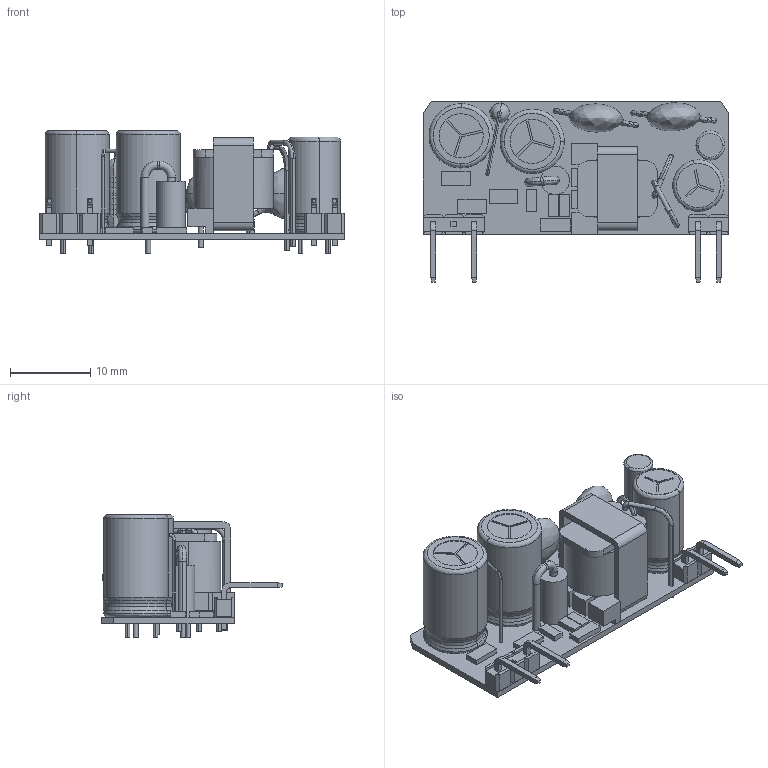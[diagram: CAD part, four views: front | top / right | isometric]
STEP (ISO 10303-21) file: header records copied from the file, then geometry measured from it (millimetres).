
FILE_DESCRIPTION (( 'STEP AP214' ), '1' );
FILE_NAME ('VCE03-P.STEP', '2019-06-14T05:00:12', ( '' ), ( '' ), 'SwSTEP 2.0', 'SolidWorks 2017', '' );
FILE_SCHEMA (( 'AUTOMOTIVE_DESIGN' ));
Length unit declared in the file: millimetre
Products named in the file (1): VCE03-P
Bounding box: 38.1 x 22.51 x 15.3 mm (x, y, z)
Volume: 3498.2 mm3; surface area: 4477.9 mm2
Topology: 13 solids, 13 shells, 490 faces, 1180 edges, 745 vertices
Faces by surface type: plane 291, cylinder 103, bspline 92, torus 4
Entity records: 22424 total; most frequent: CARTESIAN_POINT 5726, ORIENTED_EDGE 2344, DIRECTION 2252, EDGE_CURVE 1172, AXIS2_PLACEMENT_3D 753, VECTOR 746, LINE 746, VERTEX_POINT 745
